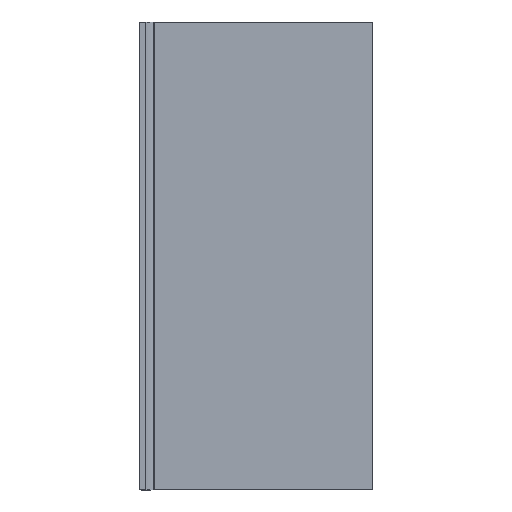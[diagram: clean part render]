
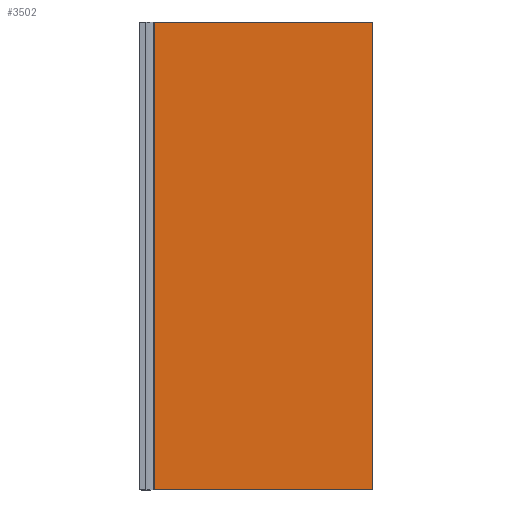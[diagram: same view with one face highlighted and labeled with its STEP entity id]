
A CAD part, front view. The second image highlights one B-rep face of the part: STEP entity #3502.
In plain terms, the highlighted planar face has unit normal (0, -1, 0) as drawn and (0, 1, 0) by its records, which use the part's own axes.
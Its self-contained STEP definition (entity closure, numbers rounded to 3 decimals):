
#121=LINE($,#5134,#482);
#122=LINE($,#5136,#483);
#123=LINE($,#5138,#484);
#124=LINE($,#5139,#485);
#482=VECTOR($,#4087,792.9);
#483=VECTOR($,#4088,1600.);
#484=VECTOR($,#4089,793.);
#485=VECTOR($,#4090,1599.9);
#840=PLANE($,#3723);
#1020=FACE_BOUND($,#1266,.T.);
#1021=FACE_BOUND($,#1267,.T.);
#1022=FACE_BOUND($,#1268,.T.);
#1266=EDGE_LOOP($,(#2482));
#1267=EDGE_LOOP($,(#2483,#2484,#2485,#2486,#2487));
#1268=EDGE_LOOP($,(#2488));
#1505=CIRCLE($,#3722,8.);
#1506=CIRCLE($,#3724,8.);
#1507=CIRCLE($,#3725,0.1);
#1627=VERTEX_POINT($,#5125);
#1628=VERTEX_POINT($,#5128);
#1629=VERTEX_POINT($,#5130);
#1630=VERTEX_POINT($,#5131);
#1631=VERTEX_POINT($,#5133);
#1632=VERTEX_POINT($,#5135);
#1633=VERTEX_POINT($,#5137);
#1973=EDGE_CURVE($,#1627,#1627,#1505,.T.);
#1974=EDGE_CURVE($,#1628,#1628,#1506,.T.);
#1975=EDGE_CURVE($,#1629,#1630,#1507,.T.);
#1976=EDGE_CURVE($,#1629,#1631,#121,.T.);
#1977=EDGE_CURVE($,#1631,#1632,#122,.T.);
#1978=EDGE_CURVE($,#1633,#1632,#123,.T.);
#1979=EDGE_CURVE($,#1630,#1633,#124,.T.);
#2482=ORIENTED_EDGE($,*,*,#1974,.F.);
#2483=ORIENTED_EDGE($,*,*,#1975,.F.);
#2484=ORIENTED_EDGE($,*,*,#1976,.T.);
#2485=ORIENTED_EDGE($,*,*,#1977,.T.);
#2486=ORIENTED_EDGE($,*,*,#1978,.F.);
#2487=ORIENTED_EDGE($,*,*,#1979,.F.);
#2488=ORIENTED_EDGE($,*,*,#1973,.F.);
#3502=ADVANCED_FACE($,(#1020,#1021,#1022),#840,.T.);
#3722=AXIS2_PLACEMENT_3D($,#5126,#4079,#4080);
#3723=AXIS2_PLACEMENT_3D($,#5127,#4081,#4082);
#3724=AXIS2_PLACEMENT_3D($,#5129,#4083,#4084);
#3725=AXIS2_PLACEMENT_3D($,#5132,#4085,#4086);
#4079=DIRECTION('center_axis',(0.,1.,0.));
#4080=DIRECTION('ref_axis',(-1.,0.,0.));
#4081=DIRECTION('center_axis',(0.,1.,0.));
#4082=DIRECTION('ref_axis',(-1.,0.,0.));
#4083=DIRECTION('center_axis',(0.,1.,0.));
#4084=DIRECTION('ref_axis',(-1.,0.,0.));
#4085=DIRECTION('center_axis',(0.,-1.,0.));
#4086=DIRECTION('ref_axis',(0.707,0.,-0.707));
#4087=DIRECTION($,(-1.,0.,0.));
#4088=DIRECTION($,(0.,0.,1.));
#4089=DIRECTION($,(-1.,0.,0.));
#4090=DIRECTION($,(0.,0.,1.));
#5125=CARTESIAN_POINT('',(30.,8.,1260.));
#5126=CARTESIAN_POINT('Origin',(22.,8.,1260.));
#5127=CARTESIAN_POINT('Origin',(793.,8.,0.));
#5128=CARTESIAN_POINT('',(30.,8.,340.));
#5129=CARTESIAN_POINT('Origin',(22.,8.,340.));
#5130=CARTESIAN_POINT('',(792.9,8.,0.));
#5131=CARTESIAN_POINT('',(793.,8.,0.1));
#5132=CARTESIAN_POINT('Origin',(792.9,8.,0.1));
#5133=CARTESIAN_POINT('',(0.,8.,0.));
#5134=CARTESIAN_POINT($,(793.,8.,0.));
#5135=CARTESIAN_POINT('',(0.,8.,1600.));
#5136=CARTESIAN_POINT($,(0.,8.,0.));
#5137=CARTESIAN_POINT('',(793.,8.,1600.));
#5138=CARTESIAN_POINT($,(793.,8.,1600.));
#5139=CARTESIAN_POINT($,(793.,8.,0.));
